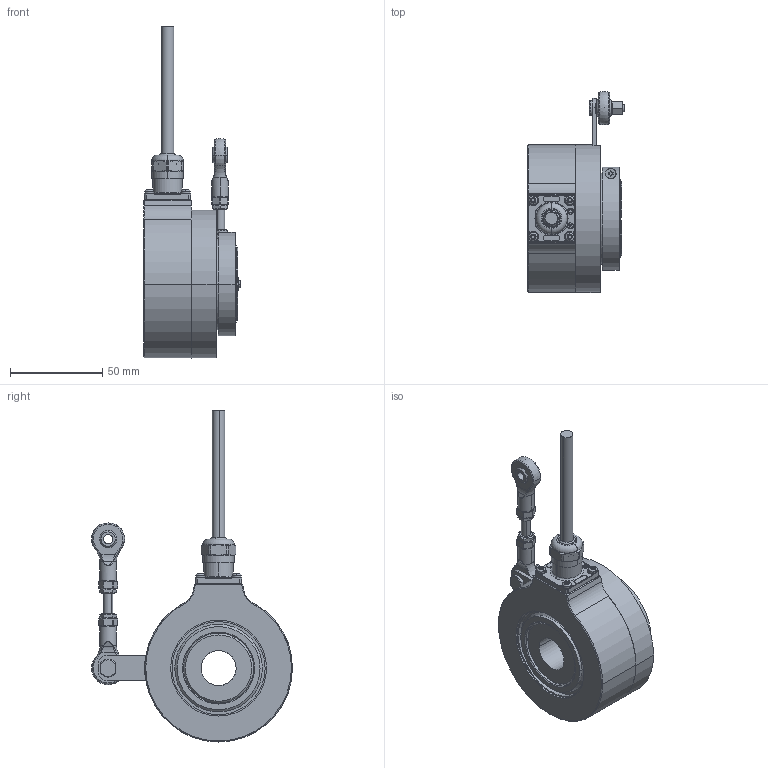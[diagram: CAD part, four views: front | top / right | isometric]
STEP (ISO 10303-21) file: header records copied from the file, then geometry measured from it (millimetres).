
FILE_DESCRIPTION (( 'STEP AP203' ), '1' );
FILE_NAME ('K80I.OXX.XXXXX.XH2585A.6XR11.XXXX.step', '2025-12-09T11:25:44', ( '' ), ( '' ), 'SwSTEP 2.0', 'SolidWorks 2021', '' );
FILE_SCHEMA (( 'CONFIG_CONTROL_DESIGN' ));
Length unit declared in the file: millimetre
Products named in the file (1): K80I.OXX.XXXXX.XH2585A.6XR11.XXXX
Bounding box: 52.6 x 108.97 x 180.07 mm (x, y, z)
Volume: 224725.9 mm3; surface area: 81031.2 mm2
Topology: 18 solids, 18 shells, 1012 faces, 2577 edges, 1603 vertices
Faces by surface type: plane 352, cylinder 341, cone 122, bspline 92, torus 75, sphere 30
Entity records: 33993 total; most frequent: CARTESIAN_POINT 9911, ORIENTED_EDGE 5078, DIRECTION 5068, EDGE_CURVE 2539, AXIS2_PLACEMENT_3D 1988, VERTEX_POINT 1599, VECTOR 1092, LINE 1092
